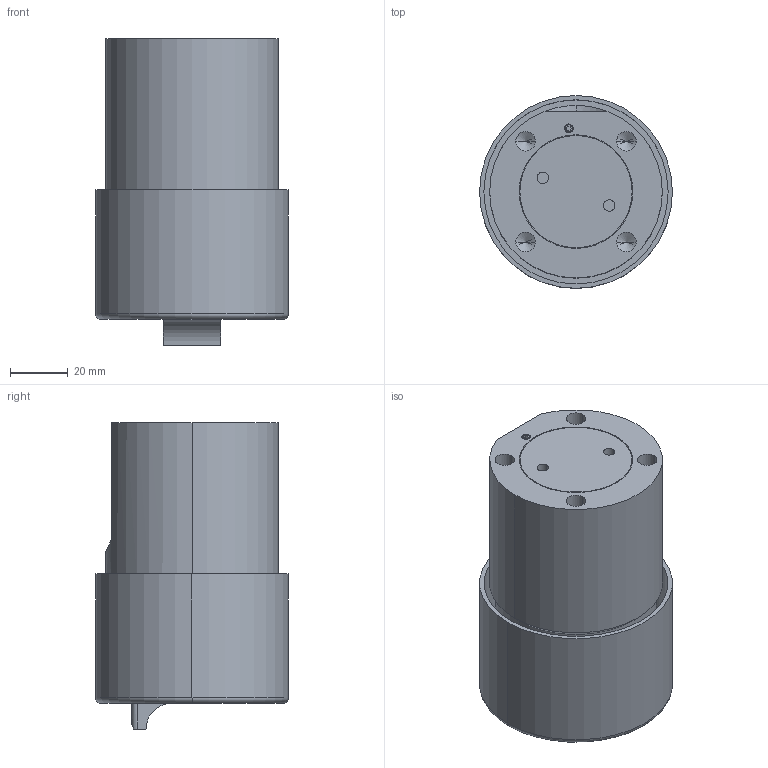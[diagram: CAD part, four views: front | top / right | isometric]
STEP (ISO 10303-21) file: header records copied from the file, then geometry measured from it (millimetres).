
FILE_DESCRIPTION (( 'STEP AP203' ), '1' );
FILE_NAME ('D0-400-09-DW-R.STEP', '2015-12-02T12:53:38', ( 'test' ), ( '' ), 'SwSTEP 2.0', 'SolidWorks 2015', '' );
FILE_SCHEMA (( 'CONFIG_CONTROL_DESIGN' ));
Length unit declared in the file: millimetre
Products named in the file (1): D0-400-09-DW-R
Bounding box: 67 x 67 x 106.5 mm (x, y, z)
Volume: 278277.5 mm3; surface area: 44295.4 mm2
Topology: 1 solids, 1 shells, 94 faces, 217 edges, 132 vertices
Faces by surface type: cylinder 45, plane 33, cone 14, torus 2
Entity records: 2707 total; most frequent: CARTESIAN_POINT 494, DIRECTION 476, ORIENTED_EDGE 410, EDGE_CURVE 205, AXIS2_PLACEMENT_3D 184, VERTEX_POINT 132, EDGE_LOOP 113, VECTOR 108
